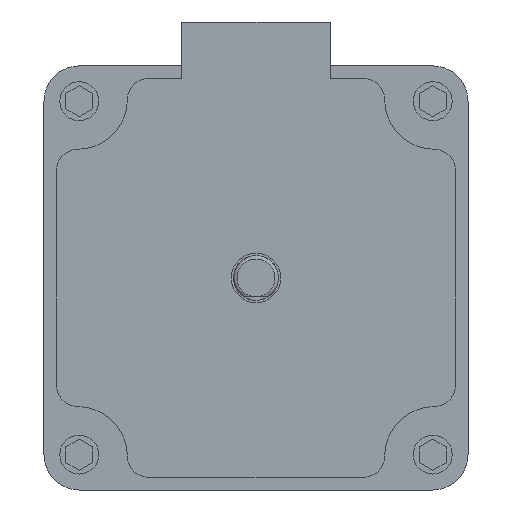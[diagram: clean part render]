
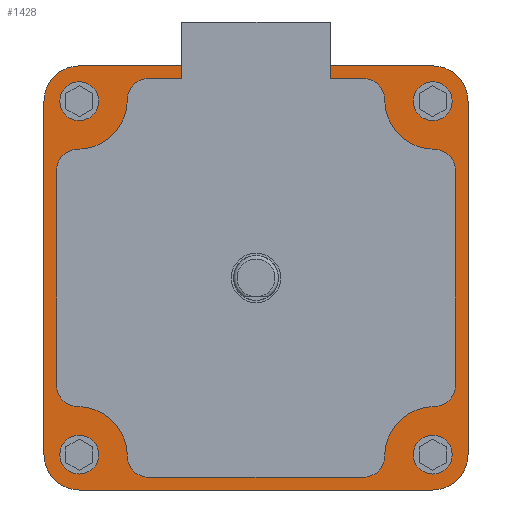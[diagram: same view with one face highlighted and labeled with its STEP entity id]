
A CAD part, front view. The second image highlights one B-rep face of the part: STEP entity #1428.
In plain terms, the highlighted planar face has unit normal (0, -1, 0).
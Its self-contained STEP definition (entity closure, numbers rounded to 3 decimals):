
#79 = VERTEX_POINT ( 'NONE', #398 ) ;
#81 = EDGE_CURVE ( 'NONE', #3973, #4540, #2149, .T. ) ;
#112 = EDGE_CURVE ( 'NONE', #5199, #214, #5578, .T. ) ;
#122 = VERTEX_POINT ( 'NONE', #1781 ) ;
#126 = CIRCLE ( 'NONE', #1510, 2.75 ) ;
#130 = CARTESIAN_POINT ( 'NONE',  ( 30., -45., 30. ) ) ;
#214 = VERTEX_POINT ( 'NONE', #5091 ) ;
#273 = FACE_BOUND ( 'NONE', #5269, .T. ) ;
#282 = PLANE ( 'NONE',  #3836 ) ;
#356 = CARTESIAN_POINT ( 'NONE',  ( 25., -45., 25. ) ) ;
#361 = EDGE_CURVE ( 'NONE', #3354, #3780, #4166, .T. ) ;
#398 = CARTESIAN_POINT ( 'NONE',  ( 30., -45., -25. ) ) ;
#421 = DIRECTION ( 'NONE',  ( 0., 0., 1. ) ) ;
#540 = CIRCLE ( 'NONE', #2050, 5. ) ;
#572 = ORIENTED_EDGE ( 'NONE', *, *, #1187, .T. ) ;
#644 = AXIS2_PLACEMENT_3D ( 'NONE', #356, #5732, #1177 ) ;
#678 = DIRECTION ( 'NONE',  ( 0., -1., 0. ) ) ;
#690 = CARTESIAN_POINT ( 'NONE',  ( 30., -45., 25. ) ) ;
#712 = EDGE_CURVE ( 'NONE', #3257, #4467, #1414, .T. ) ;
#831 = VECTOR ( 'NONE', #4609, 1000. ) ;
#846 = DIRECTION ( 'NONE',  ( 0., 1., 0. ) ) ;
#884 = DIRECTION ( 'NONE',  ( 0., 1., 0. ) ) ;
#927 = DIRECTION ( 'NONE',  ( 0., 0., 1. ) ) ;
#942 = DIRECTION ( 'NONE',  ( 0., 0., 1. ) ) ;
#948 = ORIENTED_EDGE ( 'NONE', *, *, #5787, .T. ) ;
#956 = VECTOR ( 'NONE', #4623, 1000. ) ;
#977 = DIRECTION ( 'NONE',  ( 0., 1., 0. ) ) ;
#1080 = AXIS2_PLACEMENT_3D ( 'NONE', #3580, #884, #1314 ) ;
#1095 = CARTESIAN_POINT ( 'NONE',  ( 25., -45., 27.75 ) ) ;
#1177 = DIRECTION ( 'NONE',  ( 0., 0., -1. ) ) ;
#1187 = EDGE_CURVE ( 'NONE', #5044, #122, #4113, .T. ) ;
#1225 = EDGE_CURVE ( 'NONE', #122, #79, #540, .T. ) ;
#1234 = AXIS2_PLACEMENT_3D ( 'NONE', #2838, #3270, #927 ) ;
#1245 = CIRCLE ( 'NONE', #644, 2.75 ) ;
#1314 = DIRECTION ( 'NONE',  ( 0., 0., -1. ) ) ;
#1315 = CIRCLE ( 'NONE', #5722, 5. ) ;
#1372 = FACE_BOUND ( 'NONE', #3595, .T. ) ;
#1410 = DIRECTION ( 'NONE',  ( 0., 0., 1. ) ) ;
#1414 = CIRCLE ( 'NONE', #5404, 5. ) ;
#1428 = ADVANCED_FACE ( 'NONE', ( #1372, #4817, #5174, #273, #3635 ), #282, .F. ) ;
#1455 = DIRECTION ( 'NONE',  ( 0., -1., 0. ) ) ;
#1510 = AXIS2_PLACEMENT_3D ( 'NONE', #3222, #5447, #2829 ) ;
#1522 = CARTESIAN_POINT ( 'NONE',  ( 25., -45., -25. ) ) ;
#1565 = EDGE_CURVE ( 'NONE', #3780, #5044, #4544, .T. ) ;
#1673 = ORIENTED_EDGE ( 'NONE', *, *, #81, .F. ) ;
#1781 = CARTESIAN_POINT ( 'NONE',  ( 25., -45., -30. ) ) ;
#1796 = DIRECTION ( 'NONE',  ( 0., -1., 0. ) ) ;
#1835 = CARTESIAN_POINT ( 'NONE',  ( -30., -45., 30. ) ) ;
#1855 = DIRECTION ( 'NONE',  ( 0., 0., -1. ) ) ;
#1871 = VERTEX_POINT ( 'NONE', #3018 ) ;
#1881 = AXIS2_PLACEMENT_3D ( 'NONE', #4481, #1796, #421 ) ;
#1920 = DIRECTION ( 'NONE',  ( 0., -1., 0. ) ) ;
#2030 = DIRECTION ( 'NONE',  ( 0., 0., 1. ) ) ;
#2050 = AXIS2_PLACEMENT_3D ( 'NONE', #1522, #2466, #2030 ) ;
#2149 = CIRCLE ( 'NONE', #1881, 2.75 ) ;
#2178 = EDGE_CURVE ( 'NONE', #79, #3257, #4828, .T. ) ;
#2296 = CARTESIAN_POINT ( 'NONE',  ( -25., -45., 22.25 ) ) ;
#2299 = CIRCLE ( 'NONE', #3097, 2.75 ) ;
#2419 = ORIENTED_EDGE ( 'NONE', *, *, #4124, .T. ) ;
#2455 = CIRCLE ( 'NONE', #5375, 2.75 ) ;
#2466 = DIRECTION ( 'NONE',  ( 0., -1., 0. ) ) ;
#2490 = VERTEX_POINT ( 'NONE', #4979 ) ;
#2513 = EDGE_CURVE ( 'NONE', #4540, #3973, #5822, .T. ) ;
#2546 = ORIENTED_EDGE ( 'NONE', *, *, #4275, .F. ) ;
#2642 = ORIENTED_EDGE ( 'NONE', *, *, #361, .T. ) ;
#2665 = CARTESIAN_POINT ( 'NONE',  ( 25., -45., 30. ) ) ;
#2681 = DIRECTION ( 'NONE',  ( 0., 0., 1. ) ) ;
#2711 = CIRCLE ( 'NONE', #2799, 2.75 ) ;
#2735 = CARTESIAN_POINT ( 'NONE',  ( 30., -45., 30. ) ) ;
#2768 = VECTOR ( 'NONE', #1855, 1000. ) ;
#2790 = DIRECTION ( 'NONE',  ( 0., 0., -1. ) ) ;
#2799 = AXIS2_PLACEMENT_3D ( 'NONE', #5657, #2970, #2992 ) ;
#2819 = DIRECTION ( 'NONE',  ( 0., 0., 1. ) ) ;
#2829 = DIRECTION ( 'NONE',  ( 0., 0., 1. ) ) ;
#2838 = CARTESIAN_POINT ( 'NONE',  ( -25., -45., -25. ) ) ;
#2970 = DIRECTION ( 'NONE',  ( 0., -1., 0. ) ) ;
#2992 = DIRECTION ( 'NONE',  ( 0., 0., 1. ) ) ;
#3018 = CARTESIAN_POINT ( 'NONE',  ( 25., -45., -27.75 ) ) ;
#3097 = AXIS2_PLACEMENT_3D ( 'NONE', #5137, #3823, #5172 ) ;
#3119 = EDGE_CURVE ( 'NONE', #4467, #2490, #4127, .T. ) ;
#3131 = VERTEX_POINT ( 'NONE', #4591 ) ;
#3221 = CARTESIAN_POINT ( 'NONE',  ( -25., -45., -25. ) ) ;
#3222 = CARTESIAN_POINT ( 'NONE',  ( 25., -45., -25. ) ) ;
#3238 = CARTESIAN_POINT ( 'NONE',  ( 30., -45., -30. ) ) ;
#3248 = ORIENTED_EDGE ( 'NONE', *, *, #4044, .F. ) ;
#3257 = VERTEX_POINT ( 'NONE', #690 ) ;
#3267 = CARTESIAN_POINT ( 'NONE',  ( -25., -45., 25. ) ) ;
#3270 = DIRECTION ( 'NONE',  ( 0., -1., 0. ) ) ;
#3297 = EDGE_CURVE ( 'NONE', #5731, #4118, #1245, .T. ) ;
#3315 = ORIENTED_EDGE ( 'NONE', *, *, #712, .T. ) ;
#3354 = VERTEX_POINT ( 'NONE', #5755 ) ;
#3382 = ORIENTED_EDGE ( 'NONE', *, *, #1565, .T. ) ;
#3580 = CARTESIAN_POINT ( 'NONE',  ( -25., -45., -25. ) ) ;
#3595 = EDGE_LOOP ( 'NONE', ( #2419, #4189 ) ) ;
#3635 = FACE_OUTER_BOUND ( 'NONE', #4565, .T. ) ;
#3775 = DIRECTION ( 'NONE',  ( 0., 0., 1. ) ) ;
#3780 = VERTEX_POINT ( 'NONE', #5634 ) ;
#3823 = DIRECTION ( 'NONE',  ( 0., 1., 0. ) ) ;
#3831 = ORIENTED_EDGE ( 'NONE', *, *, #3119, .T. ) ;
#3836 = AXIS2_PLACEMENT_3D ( 'NONE', #3950, #846, #2681 ) ;
#3950 = CARTESIAN_POINT ( 'NONE',  ( 0., -45., 0. ) ) ;
#3973 = VERTEX_POINT ( 'NONE', #4489 ) ;
#4013 = ORIENTED_EDGE ( 'NONE', *, *, #5212, .T. ) ;
#4044 = EDGE_CURVE ( 'NONE', #1871, #3131, #126, .T. ) ;
#4059 = AXIS2_PLACEMENT_3D ( 'NONE', #4248, #678, #3775 ) ;
#4101 = CARTESIAN_POINT ( 'NONE',  ( 25., -45., 25. ) ) ;
#4113 = LINE ( 'NONE', #3238, #956 ) ;
#4118 = VERTEX_POINT ( 'NONE', #1095 ) ;
#4124 = EDGE_CURVE ( 'NONE', #4118, #5731, #2299, .T. ) ;
#4127 = LINE ( 'NONE', #130, #831 ) ;
#4166 = LINE ( 'NONE', #1835, #2768 ) ;
#4189 = ORIENTED_EDGE ( 'NONE', *, *, #3297, .T. ) ;
#4248 = CARTESIAN_POINT ( 'NONE',  ( -25., -45., 25. ) ) ;
#4260 = ORIENTED_EDGE ( 'NONE', *, *, #1225, .T. ) ;
#4275 = EDGE_CURVE ( 'NONE', #3131, #1871, #2711, .T. ) ;
#4336 = VECTOR ( 'NONE', #942, 1000. ) ;
#4352 = ORIENTED_EDGE ( 'NONE', *, *, #2513, .F. ) ;
#4467 = VERTEX_POINT ( 'NONE', #2665 ) ;
#4481 = CARTESIAN_POINT ( 'NONE',  ( -25., -45., 25. ) ) ;
#4489 = CARTESIAN_POINT ( 'NONE',  ( -25., -45., 27.75 ) ) ;
#4533 = CARTESIAN_POINT ( 'NONE',  ( -25., -45., -22.25 ) ) ;
#4540 = VERTEX_POINT ( 'NONE', #2296 ) ;
#4544 = CIRCLE ( 'NONE', #1234, 5. ) ;
#4565 = EDGE_LOOP ( 'NONE', ( #3831, #4013, #2642, #3382, #572, #4260, #5437, #3315 ) ) ;
#4591 = CARTESIAN_POINT ( 'NONE',  ( 25., -45., -22.25 ) ) ;
#4609 = DIRECTION ( 'NONE',  ( -1., 0., 0. ) ) ;
#4623 = DIRECTION ( 'NONE',  ( 1., 0., 0. ) ) ;
#4793 = ORIENTED_EDGE ( 'NONE', *, *, #112, .T. ) ;
#4798 = EDGE_LOOP ( 'NONE', ( #1673, #4352 ) ) ;
#4817 = FACE_BOUND ( 'NONE', #4798, .T. ) ;
#4828 = LINE ( 'NONE', #2735, #4336 ) ;
#4893 = EDGE_LOOP ( 'NONE', ( #4793, #948 ) ) ;
#4979 = CARTESIAN_POINT ( 'NONE',  ( -25., -45., 30. ) ) ;
#5044 = VERTEX_POINT ( 'NONE', #5313 ) ;
#5091 = CARTESIAN_POINT ( 'NONE',  ( -25., -45., -27.75 ) ) ;
#5137 = CARTESIAN_POINT ( 'NONE',  ( 25., -45., 25. ) ) ;
#5172 = DIRECTION ( 'NONE',  ( 0., 0., -1. ) ) ;
#5174 = FACE_BOUND ( 'NONE', #4893, .T. ) ;
#5199 = VERTEX_POINT ( 'NONE', #4533 ) ;
#5212 = EDGE_CURVE ( 'NONE', #2490, #3354, #1315, .T. ) ;
#5269 = EDGE_LOOP ( 'NONE', ( #2546, #3248 ) ) ;
#5313 = CARTESIAN_POINT ( 'NONE',  ( -25., -45., -30. ) ) ;
#5375 = AXIS2_PLACEMENT_3D ( 'NONE', #3221, #977, #2790 ) ;
#5404 = AXIS2_PLACEMENT_3D ( 'NONE', #4101, #1455, #1410 ) ;
#5437 = ORIENTED_EDGE ( 'NONE', *, *, #2178, .T. ) ;
#5447 = DIRECTION ( 'NONE',  ( 0., -1., 0. ) ) ;
#5466 = CARTESIAN_POINT ( 'NONE',  ( 25., -45., 22.25 ) ) ;
#5578 = CIRCLE ( 'NONE', #1080, 2.75 ) ;
#5634 = CARTESIAN_POINT ( 'NONE',  ( -30., -45., -25. ) ) ;
#5657 = CARTESIAN_POINT ( 'NONE',  ( 25., -45., -25. ) ) ;
#5722 = AXIS2_PLACEMENT_3D ( 'NONE', #3267, #1920, #2819 ) ;
#5731 = VERTEX_POINT ( 'NONE', #5466 ) ;
#5732 = DIRECTION ( 'NONE',  ( 0., 1., 0. ) ) ;
#5755 = CARTESIAN_POINT ( 'NONE',  ( -30., -45., 25. ) ) ;
#5787 = EDGE_CURVE ( 'NONE', #214, #5199, #2455, .T. ) ;
#5822 = CIRCLE ( 'NONE', #4059, 2.75 ) ;
